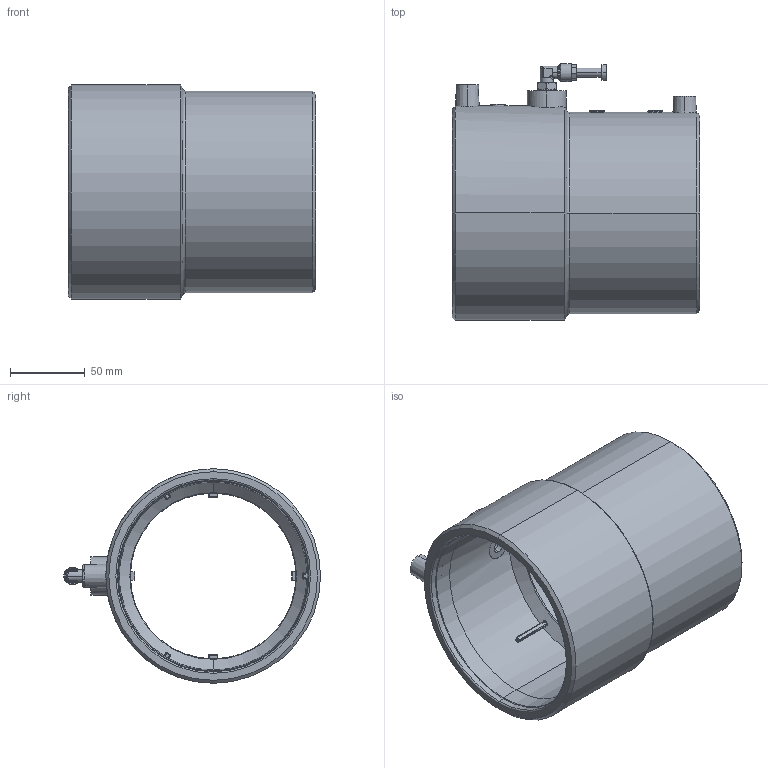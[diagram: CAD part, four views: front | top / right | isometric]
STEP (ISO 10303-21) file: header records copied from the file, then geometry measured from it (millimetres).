
FILE_DESCRIPTION (( 'STEP AP203' ), '1' );
FILE_NAME ('KPT_125-110SC-2A.step', '2011-08-08T11:52:34', ( '' ), ( '' ), 'SwSTEP 2.0', 'SolidWorks 2011', '' );
FILE_SCHEMA (( 'CONFIG_CONTROL_DESIGN' ));
Length unit declared in the file: millimetre
Products named in the file (1): KPT_125-110SC-2A
Bounding box: 165 x 171.48 x 143.2 mm (x, y, z)
Volume: 677626 mm3; surface area: 240872.7 mm2
Topology: 1 solids, 7 shells, 590 faces, 1473 edges, 901 vertices
Faces by surface type: cylinder 249, plane 135, cone 108, bspline 49, torus 27, sphere 22
Entity records: 26361 total; most frequent: CARTESIAN_POINT 13187, ORIENTED_EDGE 2898, DIRECTION 2607, EDGE_CURVE 1449, AXIS2_PLACEMENT_3D 1047, VERTEX_POINT 897, EDGE_LOOP 634, FACE_OUTER_BOUND 590
